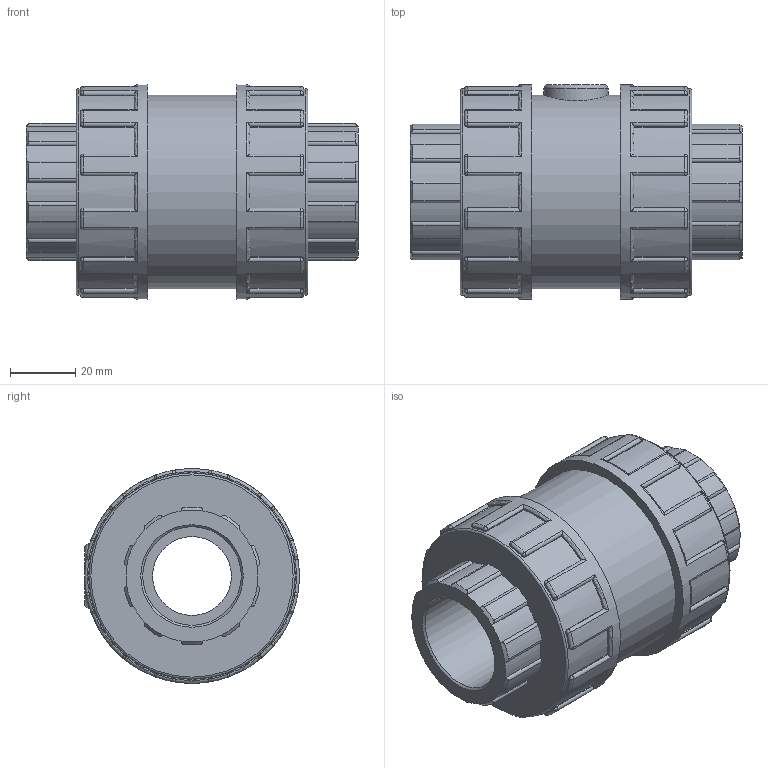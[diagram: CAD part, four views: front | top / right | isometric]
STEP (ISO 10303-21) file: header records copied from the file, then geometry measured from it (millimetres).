
FILE_DESCRIPTION(/* description */ ('PLASSON CHECK VALVE THR 1" PTFE COATED SPRING + EPDM O-RING'),/* implementation_level */ '2;1');
FILE_NAME(/* name */ 'C:\Dropbox\KIMPROJECTS-Inventor\99-16-3568-Processing\PVC Catalog 2017\110810 - 110610 110910 - 110010\11081010.ipt.stp',/* time_stamp */ '2017-12-07T16:08:08+02:00',/* author */ ('KIM'),/* organization */ (''),/* preprocessor_version */ 'ST-DEVELOPER v15.6',/* originating_system */ 'Autodesk Inventor 2015',/* authorisation */ '');
FILE_SCHEMA (('AUTOMOTIVE_DESIGN { 1 0 10303 214 3 1 1 }'));
Length unit declared in the file: millimetre
Products named in the file (1): 11081010
Bounding box: 102 x 66 x 66 mm (x, y, z)
Volume: 203909.3 mm3; surface area: 34724.4 mm2
Topology: 1 solids, 1 shells, 411 faces, 1021 edges, 618 vertices
Faces by surface type: cylinder 185, plane 105, torus 51, sphere 48, cone 22
Full cylindrical faces by diameter (mm): 19.8 x1, 24.233 x1, 30.291 x2, 59.4 x1, 63.36 x2, 66 x2
Entity records: 13378 total; most frequent: CARTESIAN_POINT 3599, DIRECTION 2180, ORIENTED_EDGE 1998, EDGE_CURVE 999, AXIS2_PLACEMENT_3D 906, VERTEX_POINT 611, CIRCLE 494, EDGE_LOOP 434
